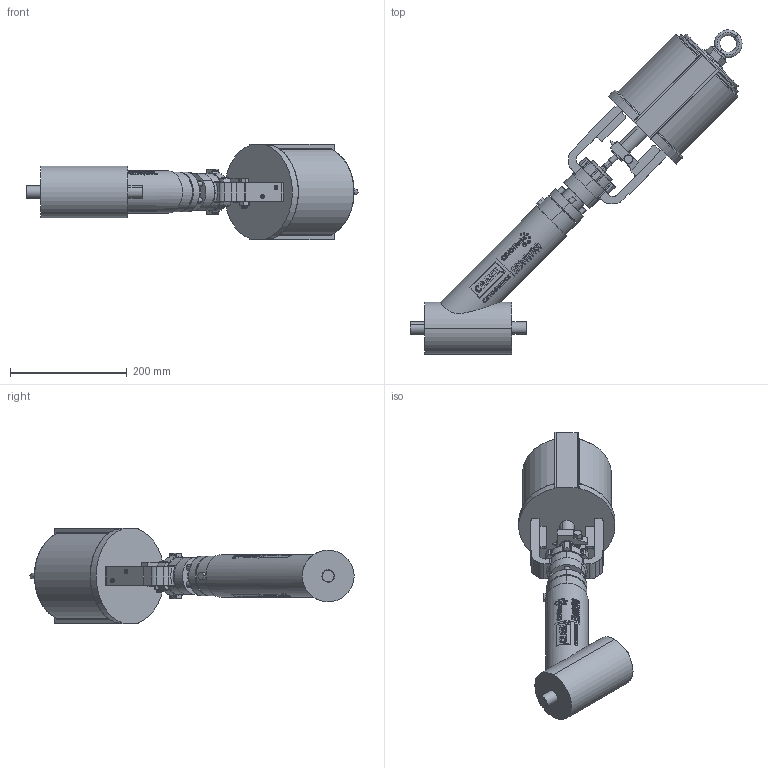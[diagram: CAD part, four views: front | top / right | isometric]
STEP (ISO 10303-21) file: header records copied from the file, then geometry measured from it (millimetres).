
FILE_DESCRIPTION (( 'STEP AP203' ), '1' );
FILE_NAME ('0.5IN Y-PATTERN PNEUMATIC CRANE BELLOWS SEAL VALVE.STEP', '2025-12-18T16:50:31', ( '' ), ( '' ), 'SwSTEP 2.0', 'SolidWorks 2023', '' );
FILE_SCHEMA (( 'CONFIG_CONTROL_DESIGN' ));
Length unit declared in the file: inch
Products named in the file (1): 0.5IN Y-PATTERN PNEUMATIC CRANE BELLOWS SEAL VALVE
Bounding box: 569.26 x 555.89 x 163.58 mm (x, y, z)
Volume: 5557991.2 mm3; surface area: 326541.6 mm2
Topology: 2 solids, 2 shells, 1849 faces, 5134 edges, 3384 vertices
Faces by surface type: plane 919, cylinder 582, bspline 282, cone 38, torus 22, sphere 6
Full cylindrical faces by diameter (mm): 0.896 x2, 0.982 x2, 1.067 x2, 1.223 x2, 1.381 x2, 1.78 x2, 1.842 x2, 2.045 x2, 2.179 x2, 2.284 x2, 2.405 x2, 2.744 x2, 3.706 x2, 4.578 x2, 5.539 x2, 6.45 x2, 73.025 x1
Entity records: 255546 total; most frequent: CARTESIAN_POINT 213530, ORIENTED_EDGE 10150, DIRECTION 6950, EDGE_CURVE 5075, VERTEX_POINT 3384, AXIS2_PLACEMENT_3D 2321, VECTOR 2308, LINE 2308
